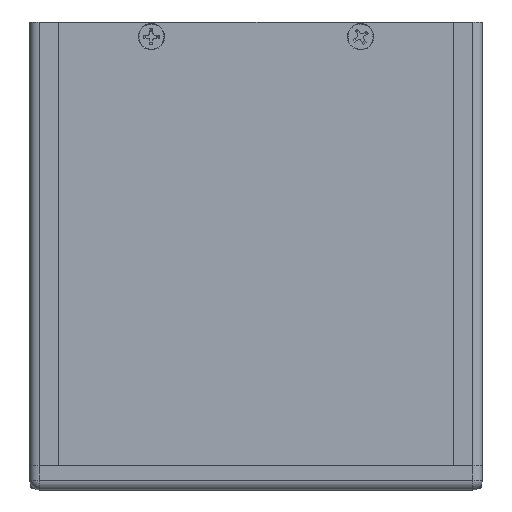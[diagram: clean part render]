
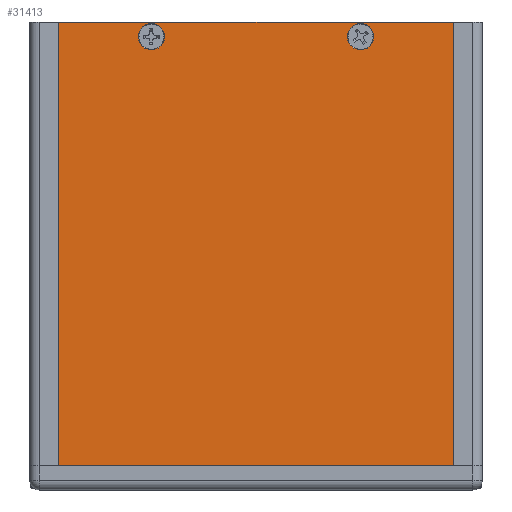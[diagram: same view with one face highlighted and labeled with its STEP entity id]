
A CAD part, front view. The second image highlights one B-rep face of the part: STEP entity #31413.
In plain terms, the highlighted planar face has unit normal (0, -1, 0).
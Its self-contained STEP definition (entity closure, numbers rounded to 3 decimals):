
#89 = CARTESIAN_POINT ( 'NONE',  ( 12.132, -41.192, 99.851 ) ) ;
#398 = AXIS2_PLACEMENT_3D ( 'NONE', #13686, #14059, #38250 ) ;
#1299 = VECTOR ( 'NONE', #7333, 1000. ) ;
#1865 = CIRCLE ( 'NONE', #38159, 2.7 ) ;
#2160 = DIRECTION ( 'NONE',  ( -1., 0., 0. ) ) ;
#2635 = ORIENTED_EDGE ( 'NONE', *, *, #4072, .T. ) ;
#3907 = AXIS2_PLACEMENT_3D ( 'NONE', #5821, #26723, #11953 ) ;
#4072 = EDGE_CURVE ( 'NONE', #19243, #8319, #4532, .T. ) ;
#4242 = LINE ( 'NONE', #6706, #18649 ) ;
#4347 = EDGE_LOOP ( 'NONE', ( #20162, #10542, #22793, #2635 ) ) ;
#4504 = CARTESIAN_POINT ( 'NONE',  ( -25.368, -41.192, 99.851 ) ) ;
#4532 = LINE ( 'NONE', #10599, #1299 ) ;
#5493 = DIRECTION ( 'NONE',  ( -1., 0., 0. ) ) ;
#5821 = CARTESIAN_POINT ( 'NONE',  ( 14.832, -41.192, 99.851 ) ) ;
#5987 = VECTOR ( 'NONE', #18807, 1000. ) ;
#6095 = VECTOR ( 'NONE', #22208, 1000. ) ;
#6706 = CARTESIAN_POINT ( 'NONE',  ( 36.332, -41.192, 102.851 ) ) ;
#7020 = CARTESIAN_POINT ( 'NONE',  ( -49.568, -41.192, 10.851 ) ) ;
#7333 = DIRECTION ( 'NONE',  ( 0., 0., 1. ) ) ;
#7349 = AXIS2_PLACEMENT_3D ( 'NONE', #21865, #9971, #10103 ) ;
#8319 = VERTEX_POINT ( 'NONE', #19956 ) ;
#8536 = EDGE_LOOP ( 'NONE', ( #34907, #37683 ) ) ;
#9380 = LINE ( 'NONE', #33644, #6095 ) ;
#9576 = EDGE_LOOP ( 'NONE', ( #21513, #27097 ) ) ;
#9971 = DIRECTION ( 'NONE',  ( 0., 1., 0. ) ) ;
#10103 = DIRECTION ( 'NONE',  ( -1., 0., 0. ) ) ;
#10228 = CARTESIAN_POINT ( 'NONE',  ( 17.532, -41.192, 99.851 ) ) ;
#10458 = PLANE ( 'NONE',  #398 ) ;
#10542 = ORIENTED_EDGE ( 'NONE', *, *, #35605, .T. ) ;
#10599 = CARTESIAN_POINT ( 'NONE',  ( 36.332, -41.192, 102.851 ) ) ;
#11119 = FACE_BOUND ( 'NONE', #8536, .T. ) ;
#11492 = DIRECTION ( 'NONE',  ( 0., 1., 0. ) ) ;
#11953 = DIRECTION ( 'NONE',  ( -1., 0., 0. ) ) ;
#11977 = AXIS2_PLACEMENT_3D ( 'NONE', #37897, #11492, #5493 ) ;
#12035 = FACE_OUTER_BOUND ( 'NONE', #4347, .T. ) ;
#12558 = VERTEX_POINT ( 'NONE', #89 ) ;
#13686 = CARTESIAN_POINT ( 'NONE',  ( 36.332, -41.192, 102.851 ) ) ;
#13890 = FACE_BOUND ( 'NONE', #9576, .T. ) ;
#14059 = DIRECTION ( 'NONE',  ( 0., -1., 0. ) ) ;
#17032 = VERTEX_POINT ( 'NONE', #10228 ) ;
#17077 = VERTEX_POINT ( 'NONE', #4504 ) ;
#17091 = EDGE_CURVE ( 'NONE', #21317, #17077, #26946, .T. ) ;
#17769 = EDGE_CURVE ( 'NONE', #23673, #19243, #29688, .T. ) ;
#18649 = VECTOR ( 'NONE', #30193, 1000. ) ;
#18807 = DIRECTION ( 'NONE',  ( 1., 0., 0. ) ) ;
#19243 = VERTEX_POINT ( 'NONE', #22715 ) ;
#19883 = VERTEX_POINT ( 'NONE', #26799 ) ;
#19956 = CARTESIAN_POINT ( 'NONE',  ( 36.332, -41.192, 102.851 ) ) ;
#20162 = ORIENTED_EDGE ( 'NONE', *, *, #22671, .T. ) ;
#21317 = VERTEX_POINT ( 'NONE', #30264 ) ;
#21513 = ORIENTED_EDGE ( 'NONE', *, *, #17091, .T. ) ;
#21673 = CIRCLE ( 'NONE', #11977, 2.7 ) ;
#21865 = CARTESIAN_POINT ( 'NONE',  ( -28.068, -41.192, 99.851 ) ) ;
#22208 = DIRECTION ( 'NONE',  ( 0., 0., -1. ) ) ;
#22671 = EDGE_CURVE ( 'NONE', #8319, #19883, #4242, .T. ) ;
#22715 = CARTESIAN_POINT ( 'NONE',  ( 36.332, -41.192, 10.851 ) ) ;
#22793 = ORIENTED_EDGE ( 'NONE', *, *, #17769, .T. ) ;
#23673 = VERTEX_POINT ( 'NONE', #7020 ) ;
#26026 = EDGE_CURVE ( 'NONE', #12558, #17032, #1865, .T. ) ;
#26723 = DIRECTION ( 'NONE',  ( 0., 1., 0. ) ) ;
#26799 = CARTESIAN_POINT ( 'NONE',  ( -49.568, -41.192, 102.851 ) ) ;
#26946 = CIRCLE ( 'NONE', #7349, 2.7 ) ;
#27097 = ORIENTED_EDGE ( 'NONE', *, *, #28898, .T. ) ;
#28733 = DIRECTION ( 'NONE',  ( 0., 1., 0. ) ) ;
#28898 = EDGE_CURVE ( 'NONE', #17077, #21317, #21673, .T. ) ;
#29688 = LINE ( 'NONE', #33839, #5987 ) ;
#30193 = DIRECTION ( 'NONE',  ( -1., 0., 0. ) ) ;
#30264 = CARTESIAN_POINT ( 'NONE',  ( -30.768, -41.192, 99.851 ) ) ;
#31413 = ADVANCED_FACE ( 'NONE', ( #13890, #11119, #12035 ), #10458, .T. ) ;
#32950 = EDGE_CURVE ( 'NONE', #17032, #12558, #37418, .T. ) ;
#33644 = CARTESIAN_POINT ( 'NONE',  ( -49.568, -41.192, 102.851 ) ) ;
#33839 = CARTESIAN_POINT ( 'NONE',  ( 36.332, -41.192, 10.851 ) ) ;
#34907 = ORIENTED_EDGE ( 'NONE', *, *, #26026, .T. ) ;
#35605 = EDGE_CURVE ( 'NONE', #19883, #23673, #9380, .T. ) ;
#37418 = CIRCLE ( 'NONE', #3907, 2.7 ) ;
#37683 = ORIENTED_EDGE ( 'NONE', *, *, #32950, .T. ) ;
#37897 = CARTESIAN_POINT ( 'NONE',  ( -28.068, -41.192, 99.851 ) ) ;
#38139 = CARTESIAN_POINT ( 'NONE',  ( 14.832, -41.192, 99.851 ) ) ;
#38159 = AXIS2_PLACEMENT_3D ( 'NONE', #38139, #28733, #2160 ) ;
#38250 = DIRECTION ( 'NONE',  ( -1., 0., 0. ) ) ;
